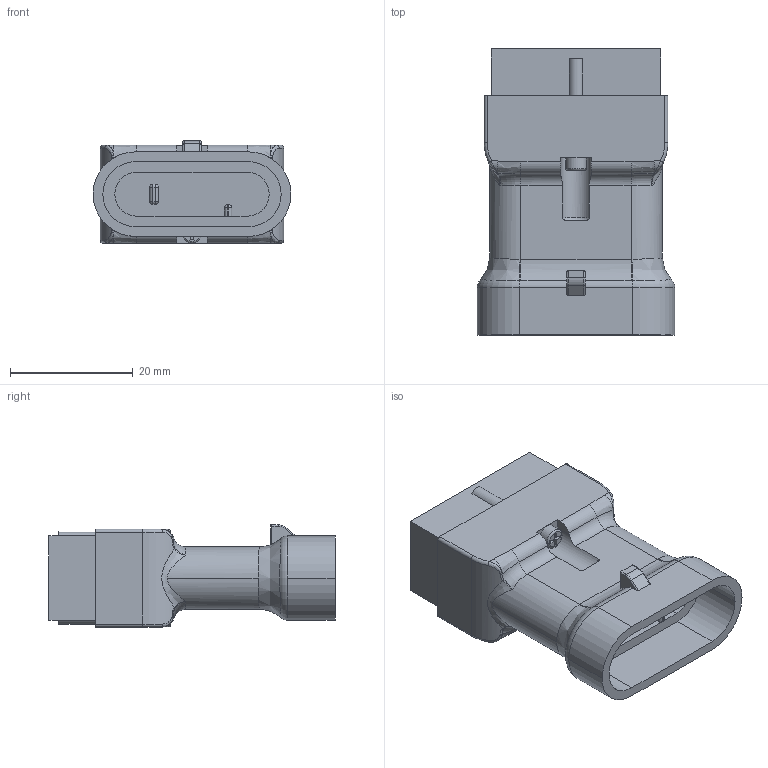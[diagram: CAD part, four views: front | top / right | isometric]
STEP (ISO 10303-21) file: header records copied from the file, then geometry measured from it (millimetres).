
FILE_DESCRIPTION (( 'STEP AP203' ), '1' );
FILE_NAME ('ZF_STEP_VN_CPxxSAK_A10.STEP', '2010-04-15T08:04:42', ( 'fabio' ), ( '' ), 'SwSTEP 2.0', 'SolidWorks 2009', '' );
FILE_SCHEMA (( 'CONFIG_CONTROL_DESIGN' ));
Length unit declared in the file: millimetre
Products named in the file (2): Pizzato_VN_CxxxDNx_Connettore SAK; ZF_STEP_VN_CPxxSAK_A10
Assembly tree (1 placements, depth 2):
  ZF_STEP_VN_CPxxSAK_A10
    Pizzato_VN_CxxxDNx_Connettore SAK
Bounding box: 32.3 x 46.7 x 16.7 mm (x, y, z)
Volume: 13217.4 mm3; surface area: 6121.1 mm2
Topology: 1 solids, 1 shells, 196 faces, 496 edges, 300 vertices
Faces by surface type: cylinder 74, plane 69, bspline 28, torus 19, sphere 6
Entity records: 9203 total; most frequent: CARTESIAN_POINT 4459, ORIENTED_EDGE 972, DIRECTION 931, EDGE_CURVE 486, AXIS2_PLACEMENT_3D 346, VERTEX_POINT 300, VECTOR 239, LINE 239
